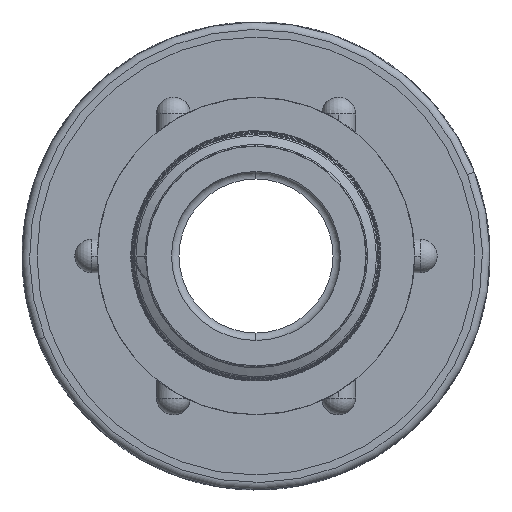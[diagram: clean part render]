
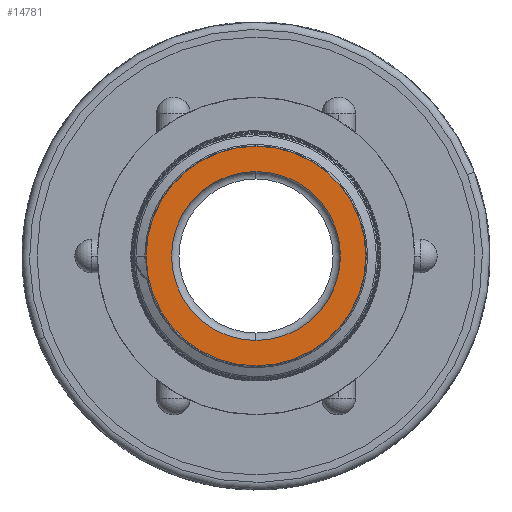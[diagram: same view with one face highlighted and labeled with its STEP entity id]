
A CAD part, left-side view. The second image highlights one B-rep face of the part: STEP entity #14781.
In plain terms, the highlighted planar face has unit normal (-1, 0, 0).
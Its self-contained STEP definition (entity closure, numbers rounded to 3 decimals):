
#190 = CARTESIAN_POINT ( 'NONE',  ( 0., 0., 0. ) ) ;
#191 = DIRECTION ( 'NONE',  ( -1., 0., 0. ) ) ;
#192 = DIRECTION ( 'NONE',  ( 0., 0., 1. ) ) ;
#362 = CARTESIAN_POINT ( 'NONE',  ( 0., 0., 0. ) ) ;
#363 = DIRECTION ( 'NONE',  ( -1., 0., 0. ) ) ;
#364 = DIRECTION ( 'NONE',  ( 0., 0., 1. ) ) ;
#8163 = CARTESIAN_POINT ( 'NONE',  ( 0., 0., 0. ) ) ;
#8164 = DIRECTION ( 'NONE',  ( -1., 0., 0. ) ) ;
#8165 = DIRECTION ( 'NONE',  ( 0., 0., 1. ) ) ;
#9037 = CARTESIAN_POINT ( 'NONE',  ( 0., 0., 14.62 ) ) ;
#9060 = CARTESIAN_POINT ( 'NONE',  ( 0., 0., -14.62 ) ) ;
#13410 = ORIENTED_EDGE ( 'NONE', *, *, #15647, .F. ) ;
#13411 = ORIENTED_EDGE ( 'NONE', *, *, #15345, .F. ) ;
#13412 = ORIENTED_EDGE ( 'NONE', *, *, #17485, .T. ) ;
#13413 = ORIENTED_EDGE ( 'NONE', *, *, #17460, .T. ) ;
#14153 = CARTESIAN_POINT ( 'NONE',  ( 0., 0., 11.25 ) ) ;
#14256 = VERTEX_POINT ( 'NONE', #14153 ) ;
#14294 = VERTEX_POINT ( 'NONE', #18694 ) ;
#14781 = ADVANCED_FACE ( 'NONE', ( #19846, #19847 ), #19848, .F. ) ;
#15345 = EDGE_CURVE ( 'NONE', #14294, #14256, #26535, .T. ) ;
#15647 = EDGE_CURVE ( 'NONE', #14256, #14294, #26910, .T. ) ;
#15771 = VERTEX_POINT ( 'NONE', #9037 ) ;
#15795 = VERTEX_POINT ( 'NONE', #9060 ) ;
#16329 = EDGE_LOOP ( 'NONE', ( #13410, #13411 ) ) ;
#16352 = EDGE_LOOP ( 'NONE', ( #13412, #13413 ) ) ;
#17054 = AXIS2_PLACEMENT_3D ( 'NONE', #19842, #19850, #19851 ) ;
#17460 = EDGE_CURVE ( 'NONE', #15771, #15795, #27540, .T. ) ;
#17485 = EDGE_CURVE ( 'NONE', #15795, #15771, #27542, .T. ) ;
#18694 = CARTESIAN_POINT ( 'NONE',  ( 0., 0., -11.25 ) ) ;
#19842 = CARTESIAN_POINT ( 'NONE',  ( 0., 11.25, 0. ) ) ;
#19846 = FACE_BOUND ( 'NONE', #16329, .T. ) ;
#19847 = FACE_OUTER_BOUND ( 'NONE', #16352, .T. ) ;
#19848 = PLANE ( 'NONE',  #17054 ) ;
#19850 = DIRECTION ( 'NONE',  ( 1., 0., 0. ) ) ;
#19851 = DIRECTION ( 'NONE',  ( 0., 0., -1. ) ) ;
#26535 = CIRCLE ( 'NONE', #26540, 11.25 ) ;
#26540 = AXIS2_PLACEMENT_3D ( 'NONE', #27751, #27752, #27753 ) ;
#26910 = CIRCLE ( 'NONE', #26913, 11.25 ) ;
#26913 = AXIS2_PLACEMENT_3D ( 'NONE', #8163, #8164, #8165 ) ;
#27540 = CIRCLE ( 'NONE', #27543, 14.62 ) ;
#27542 = CIRCLE ( 'NONE', #27548, 14.62 ) ;
#27543 = AXIS2_PLACEMENT_3D ( 'NONE', #190, #191, #192 ) ;
#27548 = AXIS2_PLACEMENT_3D ( 'NONE', #362, #363, #364 ) ;
#27751 = CARTESIAN_POINT ( 'NONE',  ( 0., 0., 0. ) ) ;
#27752 = DIRECTION ( 'NONE',  ( -1., 0., 0. ) ) ;
#27753 = DIRECTION ( 'NONE',  ( 0., 0., 1. ) ) ;
